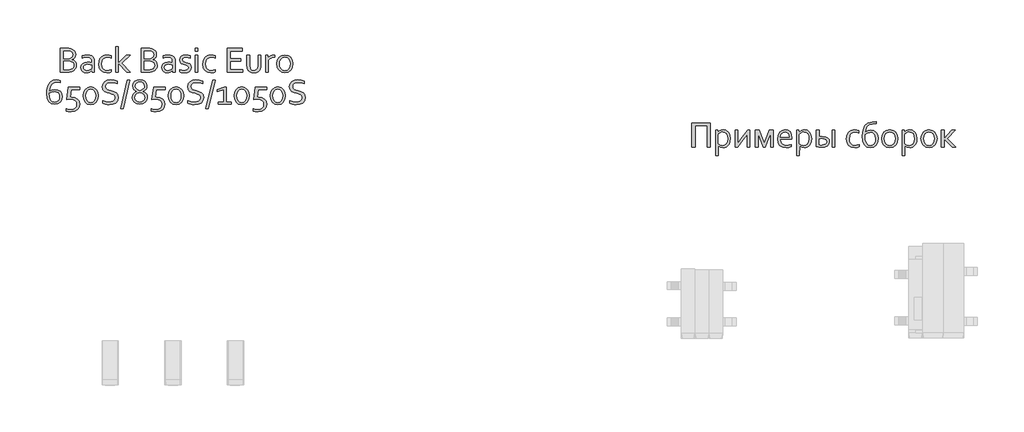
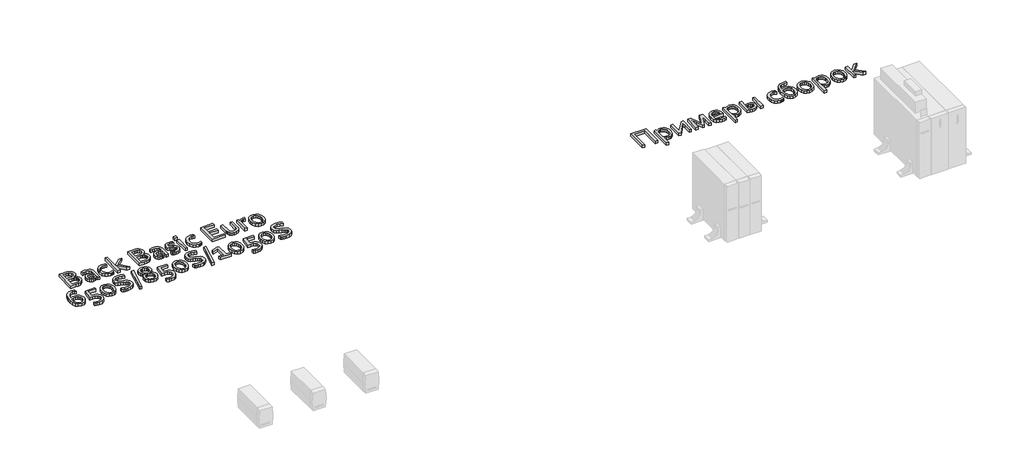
# One storey, part 14 of 14: 2 proxies.
"""IFC4 building model written with IfcOpenShell, lengths in millimetres."""

from ifc_helpers import new_model, si_unit, origin, origin_with_axes, place, context, project, spatial, polyline, outline, extrude, element, save

model = new_model("IFC4")

# Units and contexts
model_context = context("Model", 3, world=origin())
ifc_project = project(units=[si_unit("LENGTHUNIT", "METRE", prefix="MILLI")], contexts=[model_context])

# Site, building, storey
site = spatial("IfcSite", under=ifc_project)
building = spatial("IfcBuilding", under=site)
storey = spatial("IfcBuildingStorey", under=building, Name="Этаж 01", Elevation=0.0)

# Proxies
placement = place(None, origin())
element("IfcBuildingElementProxy", 1, Name="150 мм Corbel", ObjectType="150 мм Corbel", at=placement, inside=storey, context=model_context, shape_type="SweptSolid", body=[
    extrude(outline(polyline([(19660.6944893, 506.7147923), (19660.6944893, 355.5135004), (19641.0943218, 355.5135004), (19641.0943218, 489.9146487), (19565.4936759, 489.9146487), (19565.4936759, 355.5135004), (19545.8935084, 355.5135004), (19545.8935084, 506.7147923), (19660.6944893, 506.7147923)])), origin_with_axes(), (0.0, 0.0, 1.0), 20.0),
    extrude(outline(polyline([(19786.6955658, 409.9389654), (19784.5299223, 390.2950476), (19778.8423737, 375.3324197), (19770.5735531, 364.6354534), (19760.729719, 357.7010191), (19750.3827556, 353.8947366), (19740.4951711, 352.7134765), (19723.8044035, 355.9072538), (19711.0949199, 365.3573345), (19710.7886673, 302.3130459), (19694.2947764, 302.3130459), (19694.2947764, 461.9144095), (19707.1136359, 461.9144095), (19710.7449169, 449.8393063), (19714.7480761, 454.1924685), (19720.7856277, 458.7206322), (19729.9075806, 462.9206681), (19741.5014297, 464.7144334), (19758.4328243, 461.6956576), (19772.8704477, 452.0705754), (19782.9111585, 435.0954304), (19786.6955658, 409.9389654)]), holes=[polyline([(19769.8954223, 409.8077143), (19767.9266555, 426.8266097), (19762.020355, 439.6673444), (19752.3296472, 447.8486643), (19739.0514088, 450.7143138), (19729.1856995, 449.1611755), (19721.1356307, 445.2455171), (19714.9449528, 440.1485985), (19710.7886673, 435.2704318), (19710.7886673, 379.576206), (19723.3450246, 370.1698756), (19738.4826539, 366.7135961), (19748.9389932, 368.5948622), (19759.1328303, 375.3324197), (19766.8547713, 388.5450326), (19769.8954223, 409.8077143)])]), origin_with_axes(), (0.0, 0.0, 1.0), 20.0),
    extrude(outline(polyline([(19832.9397109, 355.5135004), (19817.495829, 355.5135004), (19817.495829, 461.9144095), (19834.2959725, 461.9144095), (19834.2959725, 403.5514108), (19833.7272176, 380.4949639), (19841.9085375, 392.1544385), (19851.796122, 405.6951792), (19894.4527365, 461.9144095), (19909.8966184, 461.9144095), (19909.8966184, 355.5135004), (19893.0964749, 355.5135004), (19893.0964749, 413.8764991), (19893.6652297, 436.9329461), (19885.4401595, 425.2734714), (19875.5088246, 411.7327307), (19832.9397109, 355.5135004)])), origin_with_axes(), (0.0, 0.0, 1.0), 20.0),
    extrude(outline(polyline([(19994.466091, 355.5135004), (19973.9471657, 406.4826859), (19960.5158009, 440.7392286), (19960.297049, 406.7889385), (19960.297049, 355.5135004), (19943.4969055, 355.5135004), (19943.4969055, 461.9144095), (19968.0408652, 461.9144095), (19987.0722778, 413.5264961), (19999.0598802, 381.5012225), (20011.8349894, 413.5264961), (20030.9539027, 461.9144095), (20055.4978624, 461.9144095), (20055.4978624, 355.5135004), (20038.6977189, 355.5135004), (20038.6977189, 406.7889385), (20039.4852256, 440.7392286), (20025.0476023, 406.4826859), (20004.5286769, 355.5135004), (19994.466091, 355.5135004)])), origin_with_axes(), (0.0, 0.0, 1.0), 20.0),
    extrude(outline(polyline([(20138.8423245, 366.7135961), (20154.6143342, 368.1792336), (20168.8113305, 372.313644), (20168.8113305, 358.4885258), (20154.6799598, 354.2666148), (20136.6110554, 352.7134765), (20115.1514971, 355.6228764), (20098.1326017, 365.0292067), (20087.3262594, 382.0043518), (20083.4981016, 407.2701926), (20087.4793857, 432.5141583), (20098.0669761, 450.3643108), (20113.2921062, 461.1269028), (20131.2735098, 464.7144334), (20147.7674007, 461.7831584), (20161.0675144, 452.5518295), (20169.9707155, 436.2985656), (20173.2301183, 412.4327367), (20173.2301183, 410.1795925), (20173.0988672, 405.913931), (20099.3794873, 405.913931), (20102.4638887, 387.7137755), (20110.8858356, 375.594922), (20123.3984425, 368.8354892), (20138.8423245, 366.7135961)]), holes=[polyline([(20130.5297535, 450.7143138), (20119.0234052, 448.2861681), (20109.7483259, 441.6798616), (20103.317021, 431.9016531), (20100.2982452, 419.9140506), (20156.2987236, 419.9140506), (20154.6143342, 432.011029), (20149.6486668, 441.7892375), (20141.598598, 448.3299184), (20130.5297535, 450.7143138)])]), origin_with_axes(), (0.0, 0.0, 1.0), 20.0),
    extrude(outline(polyline([(20296.2999198, 409.9389654), (20294.1342763, 390.2950476), (20288.4467277, 375.3324197), (20280.177907, 364.6354534), (20270.3340729, 357.7010191), (20259.9871095, 353.8947366), (20250.0995251, 352.7134765), (20233.4087575, 355.9072538), (20220.6992739, 365.3573345), (20220.3930212, 302.3130459), (20203.8991303, 302.3130459), (20203.8991303, 461.9144095), (20216.7179899, 461.9144095), (20220.3492709, 449.8393063), (20224.3524301, 454.1924685), (20230.3899817, 458.7206322), (20239.5119346, 462.9206681), (20251.1057837, 464.7144334), (20268.0371783, 461.6956576), (20282.4748017, 452.0705754), (20292.5155125, 435.0954304), (20296.2999198, 409.9389654)]), holes=[polyline([(20279.4997762, 409.8077143), (20277.5310094, 426.8266097), (20271.624709, 439.6673444), (20261.9340012, 447.8486643), (20248.6557627, 450.7143138), (20238.7900534, 449.1611755), (20230.7399847, 445.2455171), (20224.5493068, 440.1485985), (20220.3930212, 435.2704318), (20220.3930212, 379.576206), (20232.9493785, 370.1698756), (20248.0870079, 366.7135961), (20258.5433472, 368.5948622), (20268.7371843, 375.3324197), (20276.4591253, 388.5450326), (20279.4997762, 409.8077143)])]), origin_with_axes(), (0.0, 0.0, 1.0), 20.0),
    extrude(outline(polyline([(20343.9003265, 461.9144095), (20343.9003265, 421.2703122), (20353.9847876, 422.3203212), (20363.4129932, 422.7140746), (20384.1506704, 420.1546777), (20398.0632892, 413.1764931), (20405.872731, 402.8076545), (20408.3008767, 389.988795), (20404.6039701, 374.6980393), (20394.3445075, 363.9354474), (20378.6818736, 357.6135184), (20358.6442024, 355.5135004), (20341.3190544, 356.5635094), (20327.1001829, 359.6260356), (20327.1001829, 461.9144095), (20343.9003265, 461.9144095)]), holes=[polyline([(20360.3942174, 369.51362), (20383.0787862, 374.6105386), (20389.3296209, 380.9269988), (20391.5007332, 389.6825424), (20389.8600941, 397.251357), (20384.9163019, 403.2670334), (20376.2756031, 407.2264422), (20363.1942413, 408.713955), (20354.5754177, 408.363952), (20343.9003265, 407.0951911), (20343.9003265, 371.0011327), (20351.5785171, 369.863623), (20360.3942174, 369.51362)])]), origin_with_axes(), (0.0, 0.0, 1.0), 20.0),
    extrude(outline(polyline([(20425.1010202, 355.5135004), (20425.1010202, 461.9144095), (20441.9011638, 461.9144095), (20441.9011638, 355.5135004), (20425.1010202, 355.5135004)])), origin_with_axes(), (0.0, 0.0, 1.0), 20.0),
    extrude(outline(polyline([(20565.2334675, 464.7144334), (20580.042969, 463.1612951), (20592.1399474, 458.8518833), (20592.1399474, 445.114266), (20579.1242112, 449.3143018), (20567.0272328, 450.7143138), (20554.1208726, 448.5267951), (20542.702025, 441.3298586), (20534.5863307, 428.0734954), (20531.5019293, 407.6201956), (20533.7988239, 391.2575558), (20540.6238822, 378.3074452), (20551.9989794, 369.7761223), (20567.8147396, 366.7135961), (20580.9179765, 368.1792336), (20593.8024616, 372.313644), (20593.8024616, 358.4885258), (20588.8367942, 356.3666327), (20582.0554862, 354.4853666), (20574.2022941, 353.1947306), (20565.8897231, 352.7134765), (20545.5457993, 355.9510042), (20529.1612843, 365.9260894), (20518.5299435, 382.96686), (20514.7017858, 407.3576934), (20516.714303, 426.3016052), (20522.2706004, 441.0892316), (20530.6706722, 451.9611994), (20541.302013, 459.2893871), (20553.2458651, 463.4237974), (20565.2334675, 464.7144334)])), origin_with_axes(), (0.0, 0.0, 1.0), 20.0),
    extrude(outline(polyline([(20634.4465589, 450.2330597), (20651.7060813, 458.8737585), (20668.7468519, 461.9144095), (20687.2095096, 458.5893811), (20701.2752548, 448.8986733), (20710.309707, 433.1485387), (20713.5034843, 411.6014796), (20710.2003311, 387.1450207), (20700.5533737, 368.5948622), (20684.9563654, 356.8478868), (20663.84681, 352.7134765), (20643.3716351, 357.0885139), (20628.1902554, 370.8042561), (20618.7620498, 394.7575857), (20615.502647, 429.8016351), (20618.9151762, 464.6488078), (20629.7433937, 490.0458998), (20648.8185566, 506.5616659), (20676.9281718, 514.6773603), (20703.397148, 517.9148879), (20703.397148, 503.9147683), (20677.4969267, 500.5897399), (20659.0123937, 496.7834574), (20645.8435312, 489.0615164), (20637.6622113, 474.3613908), (20634.4465589, 450.2330597)]), holes=[polyline([(20665.1593213, 447.9142899), (20648.0091747, 444.5236359), (20632.3027905, 435.6641852), (20631.9527875, 425.0765948), (20634.2934325, 399.0888727), (20640.9872397, 380.976218), (20651.4873294, 370.2573764), (20665.1593213, 366.7135961), (20678.2188078, 369.6011208), (20688.1282675, 378.1543189), (20694.4720717, 392.1544385), (20696.7033408, 411.2077263), (20694.0126928, 428.0953705), (20686.9251322, 439.4704677), (20676.8187959, 445.9017727), (20665.1593213, 447.9142899)])]), origin_with_axes(), (0.0, 0.0, 1.0), 20.0),
    extrude(outline(polyline([(20836.7045369, 408.5827038), (20833.1388814, 385.7668839), (20823.0325451, 368.1136081), (20807.216785, 356.7385109), (20786.4353574, 352.7134765), (20765.2383013, 356.7385109), (20749.3569156, 368.1136081), (20739.3599552, 385.7668839), (20735.9036757, 408.5827038), (20739.4693311, 431.5735253), (20749.5756675, 449.2705515), (20765.4570532, 460.689399), (20786.3041063, 464.7144334), (20807.4136617, 460.689399), (20823.2950473, 449.2705515), (20833.2482574, 431.5735253), (20836.7045369, 408.5827038)]), holes=[polyline([(20819.9043934, 408.5827038), (20817.4106221, 426.4547315), (20810.4324374, 439.6892196), (20799.7792214, 447.9142899), (20786.3041063, 450.7143138), (20772.8289912, 447.9142899), (20762.1757751, 439.6892196), (20755.1975905, 426.4547315), (20752.7038192, 408.5827038), (20755.1975905, 390.8419273), (20762.2414007, 377.6730647), (20772.9383671, 369.51362), (20786.4353574, 366.7135961), (20799.844847, 369.51362), (20810.4324374, 377.6730647), (20817.4106221, 390.8419273), (20819.9043934, 408.5827038)])]), origin_with_axes(), (0.0, 0.0, 1.0), 20.0),
    extrude(outline(polyline([(20957.1055656, 409.9389654), (20954.9399221, 390.2950476), (20949.2523735, 375.3324197), (20940.9835528, 364.6354534), (20931.1397187, 357.7010191), (20920.7927553, 353.8947366), (20910.9051709, 352.7134765), (20894.2144033, 355.9072538), (20881.5049197, 365.3573345), (20881.1986671, 302.3130459), (20864.7047761, 302.3130459), (20864.7047761, 461.9144095), (20877.5236357, 461.9144095), (20881.1549167, 449.8393063), (20885.1580759, 454.1924685), (20891.1956275, 458.7206322), (20900.3175804, 462.9206681), (20911.9114295, 464.7144334), (20928.8428241, 461.6956576), (20943.2804475, 452.0705754), (20953.3211583, 435.0954304), (20957.1055656, 409.9389654)]), holes=[polyline([(20940.3054221, 409.8077143), (20938.3366552, 426.8266097), (20932.4303548, 439.6673444), (20922.739647, 447.8486643), (20909.4614085, 450.7143138), (20899.5956992, 449.1611755), (20891.5456305, 445.2455171), (20885.3549526, 440.1485985), (20881.1986671, 435.2704318), (20881.1986671, 379.576206), (20893.7550243, 370.1698756), (20908.8926537, 366.7135961), (20919.348993, 368.5948622), (20929.5428301, 375.3324197), (20937.2647711, 388.5450326), (20940.3054221, 409.8077143)])]), origin_with_axes(), (0.0, 0.0, 1.0), 20.0),
    extrude(outline(polyline([(21083.1066421, 408.5827038), (21079.5409867, 385.7668839), (21069.4346503, 368.1136081), (21053.6188902, 356.7385109), (21032.8374626, 352.7134765), (21011.6404065, 356.7385109), (20995.7590208, 368.1136081), (20985.7620604, 385.7668839), (20982.3057809, 408.5827038), (20985.8714364, 431.5735253), (20995.9777727, 449.2705515), (21011.8591584, 460.689399), (21032.7062115, 464.7144334), (21053.8157669, 460.689399), (21069.6971526, 449.2705515), (21079.6503626, 431.5735253), (21083.1066421, 408.5827038)]), holes=[polyline([(21066.3064986, 408.5827038), (21063.8127273, 426.4547315), (21056.8345427, 439.6892196), (21046.1813266, 447.9142899), (21032.7062115, 450.7143138), (21019.2310964, 447.9142899), (21008.5778804, 439.6892196), (21001.5996957, 426.4547315), (20999.1059244, 408.5827038), (21001.5996957, 390.8419273), (21008.6435059, 377.6730647), (21019.3404723, 369.51362), (21032.8374626, 366.7135961), (21046.2469522, 369.51362), (21056.8345427, 377.6730647), (21063.8127273, 390.8419273), (21066.3064986, 408.5827038)])]), origin_with_axes(), (0.0, 0.0, 1.0), 20.0),
    extrude(outline(polyline([(21127.9617129, 409.8514647), (21174.5449234, 461.9144095), (21196.7263629, 461.9144095), (21148.6447021, 408.9327068), (21199.6576379, 355.5135004), (21177.2136962, 355.5135004), (21128.1257768, 407.663946), (21127.9070249, 355.5135004), (21111.1068814, 355.5135004), (21111.1068814, 461.9144095), (21127.9070249, 461.9144095), (21127.9617129, 409.8514647)])), origin_with_axes(), (0.0, 0.0, 1.0), 20.0),
])
element("IfcBuildingElementProxy", 2, Name="150 мм Corbel", ObjectType="150 мм Corbel", at=placement, inside=storey, context=model_context, shape_type="SweptSolid", body=[
    extrude(outline(polyline([(15656.2052422, 905.078987), (15668.6959739, 901.0758278), (15678.1023042, 894.0538928), (15683.8336032, 883.8819309), (15685.6929941, 870.428691), (15684.1836062, 859.1629697), (15679.1523132, 847.722247), (15669.9209843, 837.4846595), (15655.7677384, 829.8283441), (15641.3738654, 826.6345668), (15622.3862032, 825.715809), (15584.8921329, 825.715809), (15584.8921329, 976.9171008), (15621.3361942, 976.9171008), (15630.4143968, 976.7420993), (15637.9394611, 976.23897), (15644.3270157, 975.4077129), (15649.9051883, 974.248328), (15662.3740449, 969.0420335), (15671.9116264, 961.1888414), (15677.9710531, 950.8200028), (15680.0929463, 938.19802), (15678.8023102, 927.7198055), (15674.6460247, 918.4666014), (15667.2522115, 910.8759116), (15656.2052422, 905.078987)]), holes=[polyline([(15604.4923003, 895.7164071), (15604.4923003, 842.5159525), (15625.7987324, 842.5159525), (15639.8863527, 843.2597089), (15650.9114469, 845.6222291), (15659.3552691, 850.0191416), (15664.9334417, 855.9691925), (15667.9740927, 862.8817515), (15668.8928506, 870.2974399), (15667.9084672, 878.500635), (15664.7146899, 885.3694436), (15658.874015, 890.6851141), (15649.861438, 894.2288943), (15642.4238744, 895.3664041), (15632.0987862, 895.7164071), (15604.4923003, 895.7164071)]), polyline([(15631.6175321, 912.5165506), (15640.6519843, 913.0196799), (15647.5426682, 914.4853174), (15659.5302706, 923.0822659), (15663.2928027, 936.8855088), (15659.3552691, 950.2074976), (15647.0176637, 957.9294386), (15637.3925814, 959.613828), (15624.4862212, 960.1169573), (15604.4923003, 960.1169573), (15604.4923003, 912.5165506), (15631.6175321, 912.5165506)])]), origin_with_axes(), (0.0, 0.0, 1.0), 20.0),
    extrude(outline(polyline([(15781.418812, 837.4846595), (15775.6218874, 832.1689891), (15768.2061991, 827.4439487), (15759.0186206, 824.1407955), (15748.3872798, 822.9157851), (15734.3652849, 825.1689293), (15723.4058163, 831.7971109), (15716.2526302, 842.450327), (15713.6932333, 856.6910736), (15716.5370076, 870.6911932), (15724.4995757, 881.1694078), (15736.8153059, 887.7975894), (15752.7185668, 890.1163592), (15767.965572, 888.6288465), (15780.4563037, 885.2600677), (15780.8938075, 892.8726328), (15780.3250526, 901.207079), (15778.4000362, 907.5727583), (15769.1249569, 917.132215), (15751.8435593, 920.9166224), (15736.6403044, 919.4291096), (15722.4870585, 915.3165745), (15722.4870585, 929.0104415), (15728.8089875, 931.3948369), (15736.4871781, 933.2979781), (15744.9966258, 934.5011134), (15753.9873276, 934.916742), (15768.6218276, 933.489386), (15780.2375519, 929.2073182), (15788.9001259, 922.5736678), (15794.6751752, 914.091564), (15796.993945, 906.1946216), (15797.693951, 896.7226656), (15797.693951, 825.715809), (15783.300078, 825.715809), (15781.418812, 837.4846595)]), holes=[polyline([(15780.8938075, 872.1349556), (15769.2780832, 874.7381028), (15754.5123321, 876.1162396), (15736.8590563, 871.3474488), (15732.0847967, 865.2989597), (15730.4933769, 856.6910736), (15732.0902655, 847.9409989), (15736.4653029, 841.750321), (15743.0497341, 838.1190399), (15751.1873037, 836.9159047), (15761.7748941, 838.5565437), (15770.4812185, 842.4722021), (15776.9562738, 847.022241), (15780.8938075, 850.5660213), (15780.8938075, 872.1349556)])]), origin_with_axes(), (0.0, 0.0, 1.0), 20.0),
    extrude(outline(polyline([(15876.225872, 934.916742), (15891.0353735, 933.3636037), (15903.1323519, 929.0541919), (15903.1323519, 915.3165745), (15890.1166157, 919.5166104), (15878.0196373, 920.9166224), (15865.113277, 918.7291037), (15853.6944295, 911.5321672), (15845.5787351, 898.2758039), (15842.4943338, 877.8225042), (15844.7912284, 861.4598644), (15851.6162867, 848.5097537), (15862.9913839, 839.9784308), (15878.807144, 836.9159047), (15891.910381, 838.3815422), (15904.7948661, 842.5159525), (15904.7948661, 828.6908344), (15899.8291986, 826.5689413), (15893.0478907, 824.6876752), (15885.1946986, 823.3970392), (15876.8821276, 822.9157851), (15856.5382038, 826.1533127), (15840.1536888, 836.1283979), (15829.522348, 853.1691685), (15825.6941902, 877.5600019), (15827.7067074, 896.5039138), (15833.2630049, 911.2915401), (15841.6630767, 922.163508), (15852.2944175, 929.4916956), (15864.2382696, 933.6261059), (15876.225872, 934.916742)])), origin_with_axes(), (0.0, 0.0, 1.0), 20.0),
    extrude(outline(polyline([(15999.3394238, 932.116718), (16022.0021175, 932.116718), (15969.982923, 883.1600498), (16021.8708663, 825.715809), (16000.2581817, 825.715809), (15949.1139947, 882.4600438), (15948.8952429, 825.715809), (15932.0950993, 825.715809), (15932.0950993, 988.1171965), (15948.8952429, 988.1171965), (15948.8952429, 884.6475625), (15999.3394238, 932.116718)])), origin_with_axes(), (0.0, 0.0, 1.0), 20.0),
    extrude(outline(polyline([(16163.0095722, 905.078987), (16175.5003039, 901.0758278), (16184.9066343, 894.0538928), (16190.6379333, 883.8819309), (16192.4973241, 870.428691), (16190.9879363, 859.1629697), (16185.9566433, 847.722247), (16176.7253144, 837.4846595), (16162.5720685, 829.8283441), (16148.1781955, 826.6345668), (16129.1905333, 825.715809), (16091.6964629, 825.715809), (16091.6964629, 976.9171008), (16128.1405243, 976.9171008), (16137.2187269, 976.7420993), (16144.7437912, 976.23897), (16151.1313457, 975.4077129), (16156.7095184, 974.248328), (16169.1783749, 969.0420335), (16178.7159564, 961.1888414), (16184.7753832, 950.8200028), (16186.8972763, 938.19802), (16185.6066403, 927.7198055), (16181.4503548, 918.4666014), (16174.0565416, 910.8759116), (16163.0095722, 905.078987)]), holes=[polyline([(16138.4218621, 912.5165506), (16147.4563143, 913.0196799), (16154.3469982, 914.4853174), (16166.3346006, 923.0822659), (16170.0971328, 936.8855088), (16166.1595991, 950.2074976), (16153.8219937, 957.9294386), (16144.1969115, 959.613828), (16131.2905512, 960.1169573), (16111.2966304, 960.1169573), (16111.2966304, 912.5165506), (16138.4218621, 912.5165506)]), polyline([(16111.2966304, 895.7164071), (16111.2966304, 842.5159525), (16132.6030624, 842.5159525), (16146.6906828, 843.2597089), (16157.715777, 845.6222291), (16166.1595991, 850.0191416), (16171.7377718, 855.9691925), (16174.7784228, 862.8817515), (16175.6971806, 870.2974399), (16174.7127972, 878.500635), (16171.5190199, 885.3694436), (16165.678345, 890.6851141), (16156.665768, 894.2288943), (16149.2282045, 895.3664041), (16138.9031162, 895.7164071), (16111.2966304, 895.7164071)])]), origin_with_axes(), (0.0, 0.0, 1.0), 20.0),
    extrude(outline(polyline([(16288.223142, 837.4846595), (16282.4262175, 832.1689891), (16275.0105291, 827.4439487), (16265.8229506, 824.1407955), (16255.1916098, 822.9157851), (16241.169615, 825.1689293), (16230.2101464, 831.7971109), (16223.0569602, 842.450327), (16220.4975634, 856.6910736), (16223.3413377, 870.6911932), (16231.3039057, 881.1694078), (16243.6196359, 887.7975894), (16259.5228968, 890.1163592), (16274.7699021, 888.6288465), (16287.2606338, 885.2600677), (16287.6981375, 892.8726328), (16287.1293827, 901.207079), (16285.2043662, 907.5727583), (16275.929287, 917.132215), (16258.6478893, 920.9166224), (16243.4446344, 919.4291096), (16229.2913885, 915.3165745), (16229.2913885, 929.0104415), (16235.6133175, 931.3948369), (16243.2915081, 933.2979781), (16251.8009558, 934.5011134), (16260.7916576, 934.916742), (16275.4261577, 933.489386), (16287.0418819, 929.2073182), (16295.7044559, 922.5736678), (16301.4795053, 914.091564), (16303.7982751, 906.1946216), (16304.4982811, 896.7226656), (16304.4982811, 825.715809), (16290.1044081, 825.715809), (16288.223142, 837.4846595)]), holes=[polyline([(16287.6981375, 872.1349556), (16276.0824133, 874.7381028), (16261.3166621, 876.1162396), (16243.6633863, 871.3474488), (16238.8891268, 865.2989597), (16237.2977069, 856.6910736), (16238.8945956, 847.9409989), (16243.2696329, 841.750321), (16249.8540642, 838.1190399), (16257.9916337, 836.9159047), (16268.5792242, 838.5565437), (16277.2855486, 842.4722021), (16283.7606039, 847.022241), (16287.6981375, 850.5660213), (16287.6981375, 872.1349556)])]), origin_with_axes(), (0.0, 0.0, 1.0), 20.0),
    extrude(outline(polyline([(16349.2986638, 903.7664758), (16351.2236803, 896.5914145), (16356.3862244, 892.0632508), (16363.8894135, 889.2194765), (16372.7051138, 887.1850842), (16384.5177147, 884.2100587), (16394.7990526, 879.3537673), (16402.4116176, 870.5599421), (16405.2991423, 856.1660691), (16402.1491154, 841.9034473), (16393.2677895, 831.4908583), (16379.5739225, 825.1033037), (16362.0300226, 822.9157851), (16351.4424321, 823.5064151), (16343.0204852, 824.9939278), (16336.7860569, 826.8533187), (16332.4985203, 828.647084), (16332.4985203, 842.5159525), (16345.9517602, 838.4252926), (16360.673761, 836.9159047), (16372.0926086, 838.0971648), (16380.8426833, 841.5534443), (16386.5083567, 847.2847433), (16388.4989988, 855.2910617), (16386.6833582, 862.6848748), (16381.7833164, 867.5192911), (16374.6520054, 870.6474429), (16366.1425577, 872.8787119), (16354.3299568, 875.7881118), (16343.4361137, 880.491277), (16335.5172961, 888.7163472), (16332.4985203, 902.1039616), (16335.4954209, 916.6728361), (16343.6111152, 926.8666732), (16355.4893417, 932.9042248), (16369.8175891, 934.916742), (16386.0927282, 933.3198533), (16399.6990944, 929.3166941), (16399.6990944, 915.3165745), (16386.2239793, 919.2978585), (16372.1801093, 920.9166224), (16361.72377, 919.6259863), (16354.6143342, 916.0384557), (16350.5674247, 910.6352845), (16349.2986638, 903.7664758)])), origin_with_axes(), (0.0, 0.0, 1.0), 20.0),
    extrude(outline(polyline([(16430.4993576, 957.3169334), (16430.4993576, 976.9171008), (16447.2995011, 976.9171008), (16447.2995011, 957.3169334), (16430.4993576, 957.3169334)])), origin_with_axes(), (0.0, 0.0, 1.0), 20.0),
    extrude(outline(polyline([(16430.4993576, 825.715809), (16430.4993576, 932.116718), (16447.2995011, 932.116718), (16447.2995011, 825.715809), (16430.4993576, 825.715809)])), origin_with_axes(), (0.0, 0.0, 1.0), 20.0),
    extrude(outline(polyline([(16528.631446, 934.916742), (16543.4409475, 933.3636037), (16555.5379259, 929.0541919), (16555.5379259, 915.3165745), (16542.5221897, 919.5166104), (16530.4252113, 920.9166224), (16517.5188511, 918.7291037), (16506.1000035, 911.5321672), (16497.9843092, 898.2758039), (16494.8999078, 877.8225042), (16497.1968024, 861.4598644), (16504.0218608, 848.5097537), (16515.3969579, 839.9784308), (16531.2127181, 836.9159047), (16544.315955, 838.3815422), (16557.2004401, 842.5159525), (16557.2004401, 828.6908344), (16552.2347727, 826.5689413), (16545.4534647, 824.6876752), (16537.6002726, 823.3970392), (16529.2877016, 822.9157851), (16508.9437778, 826.1533127), (16492.5592628, 836.1283979), (16481.927922, 853.1691685), (16478.0997643, 877.5600019), (16480.1122815, 896.5039138), (16485.668579, 911.2915401), (16494.0686507, 922.163508), (16504.6999916, 929.4916956), (16516.6438436, 933.6261059), (16528.631446, 934.916742)])), origin_with_axes(), (0.0, 0.0, 1.0), 20.0),
    extrude(outline(polyline([(16651.7012475, 842.5159525), (16728.6144046, 842.5159525), (16728.6144046, 825.715809), (16632.10108, 825.715809), (16632.10108, 976.9171008), (16724.4581191, 976.9171008), (16724.4581191, 960.1169573), (16651.7012475, 960.1169573), (16651.7012475, 912.5165506), (16716.4080503, 912.5165506), (16716.4080503, 895.7164071), (16651.7012475, 895.7164071), (16651.7012475, 842.5159525)])), origin_with_axes(), (0.0, 0.0, 1.0), 20.0),
    extrude(outline(polyline([(16798.3525005, 822.9157851), (16783.5648741, 824.7095504), (16772.0585258, 829.7408434), (16763.658454, 837.5284099), (16758.1896573, 847.4597448), (16755.9802634, 856.2973203), (16755.3021327, 866.8411603), (16755.3021327, 932.116718), (16772.1022762, 932.116718), (16772.1022762, 866.4036566), (16774.4647964, 851.4847791), (16783.2367463, 840.8096879), (16798.7025035, 836.9159047), (16814.7370155, 841.2034413), (16823.3777143, 852.7097896), (16825.3027307, 866.4036566), (16825.3027307, 932.116718), (16842.1028743, 932.116718), (16842.1028743, 866.7099092), (16841.490369, 856.6910736), (16839.5216022, 848.1160004), (16834.0309303, 837.9877888), (16825.3902315, 829.9595952), (16813.5557554, 824.7533008), (16798.3525005, 822.9157851)])), origin_with_axes(), (0.0, 0.0, 1.0), 20.0),
    extrude(outline(polyline([(16930.6973812, 920.9166224), (16917.2660164, 919.7572375), (16906.1096711, 916.2353324), (16896.7033408, 910.3946575), (16889.703281, 902.1914624), (16889.703281, 825.715809), (16872.9031374, 825.715809), (16872.9031374, 932.116718), (16885.8969984, 932.116718), (16889.1345261, 915.1853234), (16895.7845829, 922.9291396), (16904.2502802, 929.2073182), (16914.5753685, 933.4073541), (16926.3660942, 934.916742), (16928.6411136, 934.8729916), (16930.6973812, 934.7417405), (16930.6973812, 920.9166224)])), origin_with_axes(), (0.0, 0.0, 1.0), 20.0),
    extrude(outline(polyline([(17043.7045967, 878.7850124), (17040.1389412, 855.9691925), (17030.0326049, 838.3159166), (17014.2168448, 826.9408194), (16993.4354172, 822.9157851), (16972.2383611, 826.9408194), (16956.3569754, 838.3159166), (16946.360015, 855.9691925), (16942.9037355, 878.7850124), (16946.469391, 901.7758338), (16956.5757273, 919.47286), (16972.457113, 930.8917076), (16993.3041661, 934.916742), (17014.4137215, 930.8917076), (17030.2951071, 919.47286), (17040.2483172, 901.7758338), (17043.7045967, 878.7850124)]), holes=[polyline([(17026.9044532, 878.7850124), (17024.4106819, 896.6570401), (17017.4324972, 909.8915282), (17006.7792812, 918.1165984), (16993.3041661, 920.9166224), (16979.829051, 918.1165984), (16969.175835, 909.8915282), (16962.1976503, 896.6570401), (16959.703879, 878.7850124), (16962.1976503, 861.0442358), (16969.2414605, 847.8753733), (16979.9384269, 839.7159286), (16993.4354172, 836.9159047), (17006.8449068, 839.7159286), (17017.4324972, 847.8753733), (17024.4106819, 861.0442358), (17026.9044532, 878.7850124)])]), origin_with_axes(), (0.0, 0.0, 1.0), 20.0),
    extrude(outline(polyline([(15548.6668234, 717.7161678), (15567.6763608, 714.8723935), (15582.7264894, 706.4723218), (15592.5703235, 692.7565796), (15596.0922286, 673.9220437), (15592.8547009, 654.2781258), (15583.4921209, 638.9217446), (15568.5294931, 628.9247842), (15548.4480715, 625.3153784), (15527.1853898, 629.9747932), (15511.3696297, 643.296782), (15501.5039204, 664.2750862), (15498.0913913, 691.9034473), (15499.7976558, 714.6755168), (15504.8945744, 735.4350692), (15513.3165213, 753.197721), (15525.4134997, 767.0665895), (15541.2292598, 776.1010417), (15560.3044228, 779.3166941), (15574.9826732, 777.6541799), (15585.2858862, 774.1103996), (15585.2858862, 759.7165267), (15574.5451695, 763.5884347), (15561.5294333, 765.3165745), (15545.9105498, 761.9915461), (15532.1729325, 751.7320834), (15521.6728427, 734.122558), (15515.6790415, 708.8785923), (15531.997931, 715.3098973), (15548.6668234, 717.7161678)]), holes=[polyline([(15549.2355782, 639.315498), (15561.0481792, 641.5030167), (15570.5857606, 647.9343216), (15576.9733152, 658.4344113), (15579.292085, 672.7407836), (15576.8420641, 687.2440325), (15570.1701321, 696.8472395), (15560.2825476, 702.1191596), (15548.1855693, 703.7160482), (15530.8822964, 700.8503987), (15514.8915348, 693.8284637), (15517.3196805, 669.7876333), (15524.4291163, 652.7468627), (15535.3448346, 642.6405264), (15549.2355782, 639.315498)])]), origin_with_axes(), (0.0, 0.0, 1.0), 20.0),
    extrude(outline(polyline([(15705.2931616, 625.4466295), (15701.8150068, 606.3933417), (15691.6211698, 591.2775876), (15674.6897751, 581.3025023), (15651.4802018, 577.7149717), (15635.2269379, 579.2024844), (15621.3361942, 583.7525233), (15621.3361942, 597.3151391), (15637.0207033, 592.8744762), (15650.6926951, 591.7150913), (15667.2959619, 594.3401137), (15679.0648125, 601.4932998), (15686.1304978, 612.0371399), (15688.493018, 624.6591228), (15685.9992467, 638.5936168), (15678.189805, 648.3718254), (15664.5396884, 654.1906251), (15644.4363916, 656.1156415), (15624.6612227, 654.9781318), (15635.2925635, 731.7162874), (15706.3431705, 731.7162874), (15706.3431705, 717.7161678), (15652.092707, 717.7161678), (15645.8364036, 669.8970093), (15652.092707, 670.1157611), (15674.8429014, 667.0969853), (15691.533669, 658.3687858), (15701.7931317, 644.3686662), (15705.2931616, 625.4466295)])), origin_with_axes(), (0.0, 0.0, 1.0), 20.0),
    extrude(outline(polyline([(15822.8941663, 678.3845818), (15819.6785139, 656.290643), (15810.337809, 638.5498664), (15795.4408068, 626.7810159), (15775.3812604, 622.5153544), (15754.9279606, 626.7810159), (15739.9653328, 638.5498664), (15730.7996295, 656.290643), (15727.6933529, 678.3845818), (15730.9090054, 700.6316469), (15740.2497102, 718.438049), (15755.2123381, 730.2506499), (15775.2937596, 734.5163114), (15795.6595586, 730.2506499), (15810.6221865, 718.438049), (15819.7878898, 700.6316469), (15822.8941663, 678.3845818)]), holes=[polyline([(15806.0940228, 678.3845818), (15803.9065041, 696.0378576), (15797.7158262, 709.2723457), (15788.0469936, 717.6067919), (15775.2937596, 720.5161917), (15762.5405257, 717.6067919), (15752.8279427, 709.2723457), (15746.6372648, 696.0378576), (15744.4934965, 678.3845818), (15746.6810152, 660.8844323), (15752.8716931, 647.6936946), (15762.6061512, 639.4248739), (15775.4250108, 636.5154741), (15788.1563695, 639.4248739), (15797.8252021, 647.6936946), (15803.9502545, 660.8844323), (15806.0940228, 678.3845818)])]), origin_with_axes(), (0.0, 0.0, 1.0), 20.0),
    extrude(outline(polyline([(15867.6945491, 736.4850782), (15870.4289475, 725.4818592), (15877.7571351, 718.3067979), (15888.4322263, 713.6692582), (15901.1198347, 710.2786043), (15918.598109, 705.5316887), (15933.8888646, 698.3566274), (15944.7389573, 686.4346506), (15948.8952429, 667.5782395), (15944.4108295, 647.3218164), (15932.0294738, 633.2998216), (15913.4793153, 625.1622521), (15890.1384908, 622.5153544), (15878.216514, 623.2372356), (15866.5570394, 625.1841272), (15856.5163286, 627.9841512), (15849.4506432, 631.0904277), (15849.4506432, 647.7155697), (15858.5288458, 644.2811654), (15868.9633099, 641.6342678), (15879.8352778, 639.9280032), (15890.1384908, 639.315498), (15905.1229939, 640.6498844), (15917.6137256, 645.1124225), (15926.1450485, 653.6218702), (15929.2950754, 667.1407357), (15926.4950515, 678.3189562), (15919.0356127, 685.6033935), (15908.2730208, 690.2846835), (15895.4322861, 693.6972126), (15878.0196373, 698.2472515), (15862.8601328, 705.3129369), (15852.1412912, 716.9505363), (15848.0943816, 735.1288166), (15852.3381679, 754.9477359), (15863.822641, 768.6853533), (15880.3821575, 776.7135469), (15900.2448272, 779.3166941), (15922.6012682, 777.0197995), (15941.5889304, 771.0478735), (15941.5889304, 754.1164788), (15922.3606411, 760.11028), (15901.1198347, 762.5165506), (15886.3103331, 760.6790349), (15875.8977442, 755.4508652), (15869.7289415, 747.2257949), (15867.6945491, 736.4850782)])), origin_with_axes(), (0.0, 0.0, 1.0), 20.0),
    extrude(outline(polyline([(15962.1078557, 597.3151391), (16004.7207198, 776.5166702), (16021.3021115, 776.5166702), (15978.6892474, 597.3151391), (15962.1078557, 597.3151391)])), origin_with_axes(), (0.0, 0.0, 1.0), 20.0),
    extrude(outline(polyline([(16083.2963912, 625.3153784), (16063.84935, 628.4872805), (16048.7992214, 637.21548), (16039.1085136, 650.3843426), (16035.6959845, 666.8782335), (16037.8835032, 681.4471079), (16044.0523059, 692.450327), (16053.3492603, 700.1722679), (16064.6149815, 704.6785564), (16054.246143, 710.2129787), (16045.9554471, 717.9130445), (16040.4647752, 728.1068816), (16038.4960084, 740.6851141), (16042.2585405, 757.2883809), (16052.2992513, 769.4072345), (16066.6056236, 776.8229228), (16083.2963912, 779.3166941), (16099.9871588, 776.8229228), (16114.293531, 769.4072345), (16124.3342418, 757.2883809), (16128.0967739, 740.6851141), (16125.9092552, 728.1068816), (16120.02483, 717.9130445), (16111.3841311, 710.2129787), (16100.840291, 705.1160602), (16112.2810138, 700.1722679), (16121.9717216, 692.450327), (16128.5342777, 681.4471079), (16130.8967978, 666.8782335), (16127.4842687, 650.3843426), (16117.7935609, 637.21548), (16102.7434323, 628.4872805), (16083.2963912, 625.3153784)]), holes=[polyline([(16083.2963912, 765.3165745), (16072.1181707, 763.6978107), (16063.2149696, 758.8852696), (16057.3742947, 751.097703), (16055.2961519, 740.4663622), (16057.1336676, 730.1084612), (16062.6462147, 721.8724533), (16071.4837902, 715.8458393), (16083.2963912, 712.11612), (16095.1089921, 715.8458393), (16103.9465676, 721.8724533), (16109.4591147, 730.1084612), (16111.2966304, 740.4663622), (16109.2184876, 751.097703), (16103.3778127, 758.8852696), (16094.518362, 763.6978107), (16083.2963912, 765.3165745)]), polyline([(16083.2963912, 698.1160004), (16071.3087887, 695.2941013), (16061.508705, 689.4534263), (16054.9023986, 680.3314734), (16052.496128, 667.6657402), (16054.836773, 655.8531393), (16061.2899531, 646.8843126), (16071.0462865, 641.2623896), (16083.2963912, 639.315498), (16095.6777469, 641.2623896), (16105.4340803, 646.8843126), (16111.8216349, 655.8531393), (16114.0966543, 667.6657402), (16111.6903837, 680.3314734), (16105.0840773, 689.4534263), (16095.2839936, 695.2941013), (16083.2963912, 698.1160004)])]), origin_with_axes(), (0.0, 0.0, 1.0), 20.0),
    extrude(outline(polyline([(16240.0977308, 625.4466295), (16236.6195761, 606.3933417), (16226.425739, 591.2775876), (16209.4943444, 581.3025023), (16186.2847711, 577.7149717), (16170.0315072, 579.2024844), (16156.1407635, 583.7525233), (16156.1407635, 597.3151391), (16171.8252725, 592.8744762), (16185.4972643, 591.7150913), (16202.1005312, 594.3401137), (16213.8693817, 601.4932998), (16220.9350671, 612.0371399), (16223.2975873, 624.6591228), (16220.803816, 638.5936168), (16212.9943743, 648.3718254), (16199.3442576, 654.1906251), (16179.2409609, 656.1156415), (16159.4657919, 654.9781318), (16170.0971328, 731.7162874), (16241.1477398, 731.7162874), (16241.1477398, 717.7161678), (16186.8972763, 717.7161678), (16180.6409728, 669.8970093), (16186.8972763, 670.1157611), (16209.6474707, 667.0969853), (16226.3382383, 658.3687858), (16236.5977009, 644.3686662), (16240.0977308, 625.4466295)])), origin_with_axes(), (0.0, 0.0, 1.0), 20.0),
    extrude(outline(polyline([(16357.6987356, 678.3845818), (16354.4830831, 656.290643), (16345.1423783, 638.5498664), (16330.245376, 626.7810159), (16310.1858297, 622.5153544), (16289.7325299, 626.7810159), (16274.7699021, 638.5498664), (16265.6041988, 656.290643), (16262.4979222, 678.3845818), (16265.7135747, 700.6316469), (16275.0542795, 718.438049), (16290.0169073, 730.2506499), (16310.0983289, 734.5163114), (16330.4641279, 730.2506499), (16345.4267558, 718.438049), (16354.5924591, 700.6316469), (16357.6987356, 678.3845818)]), holes=[polyline([(16340.8985921, 678.3845818), (16338.7110734, 696.0378576), (16332.5203955, 709.2723457), (16322.8515629, 717.6067919), (16310.0983289, 720.5161917), (16297.3450949, 717.6067919), (16287.632512, 709.2723457), (16281.4418341, 696.0378576), (16279.2980658, 678.3845818), (16281.4855844, 660.8844323), (16287.6762623, 647.6936946), (16297.4107205, 639.4248739), (16310.22958, 636.5154741), (16322.9609388, 639.4248739), (16332.6297714, 647.6936946), (16338.7548237, 660.8844323), (16340.8985921, 678.3845818)])]), origin_with_axes(), (0.0, 0.0, 1.0), 20.0),
    extrude(outline(polyline([(16402.4991184, 736.4850782), (16405.2335167, 725.4818592), (16412.5617043, 718.3067979), (16423.2367955, 713.6692582), (16435.9244039, 710.2786043), (16453.4026783, 705.5316887), (16468.6934339, 698.3566274), (16479.5435266, 686.4346506), (16483.6998121, 667.5782395), (16479.2153988, 647.3218164), (16466.834043, 633.2998216), (16448.2838845, 625.1622521), (16424.9430601, 622.5153544), (16413.0210833, 623.2372356), (16401.3616086, 625.1841272), (16391.3208979, 627.9841512), (16384.2552125, 631.0904277), (16384.2552125, 647.7155697), (16393.3334151, 644.2811654), (16403.7678792, 641.6342678), (16414.6398471, 639.9280032), (16424.9430601, 639.315498), (16439.9275631, 640.6498844), (16452.4182949, 645.1124225), (16460.9496178, 653.6218702), (16464.0996447, 667.1407357), (16461.2996207, 678.3189562), (16453.840182, 685.6033935), (16443.0775901, 690.2846835), (16430.2368554, 693.6972126), (16412.8242066, 698.2472515), (16397.6647021, 705.3129369), (16386.9458605, 716.9505363), (16382.8989509, 735.1288166), (16387.1427372, 754.9477359), (16398.6272103, 768.6853533), (16415.1867268, 776.7135469), (16435.0493965, 779.3166941), (16457.4058375, 777.0197995), (16476.3934997, 771.0478735), (16476.3934997, 754.1164788), (16457.1652104, 760.11028), (16435.9244039, 762.5165506), (16421.1149024, 760.6790349), (16410.7023135, 755.4508652), (16404.5335107, 747.2257949), (16402.4991184, 736.4850782)])), origin_with_axes(), (0.0, 0.0, 1.0), 20.0),
    extrude(outline(polyline([(16496.912425, 597.3151391), (16539.5252891, 776.5166702), (16556.1066808, 776.5166702), (16513.4938167, 597.3151391), (16496.912425, 597.3151391)])), origin_with_axes(), (0.0, 0.0, 1.0), 20.0),
    extrude(outline(polyline([(16609.7008887, 639.315498), (16609.7008887, 717.7161678), (16569.2317929, 703.7160482), (16569.2317929, 717.7161678), (16611.9759081, 731.7162874), (16626.5010322, 731.7162874), (16626.5010322, 639.315498), (16655.857533, 639.315498), (16655.857533, 625.3153784), (16573.9130829, 625.3153784), (16573.9130829, 639.315498), (16609.7008887, 639.315498)])), origin_with_axes(), (0.0, 0.0, 1.0), 20.0),
    extrude(outline(polyline([(16769.3022523, 678.3845818), (16766.0865998, 656.290643), (16756.745895, 638.5498664), (16741.8488927, 626.7810159), (16721.7893463, 622.5153544), (16701.3360466, 626.7810159), (16686.3734187, 638.5498664), (16677.2077154, 656.290643), (16674.1014389, 678.3845818), (16677.3170914, 700.6316469), (16686.6577962, 718.438049), (16701.620424, 730.2506499), (16721.7018456, 734.5163114), (16742.0676446, 730.2506499), (16757.0302724, 718.438049), (16766.1959757, 700.6316469), (16769.3022523, 678.3845818)]), holes=[polyline([(16752.5021087, 678.3845818), (16750.31459, 696.0378576), (16744.1239121, 709.2723457), (16734.4550795, 717.6067919), (16721.7018456, 720.5161917), (16708.9486116, 717.6067919), (16699.2360286, 709.2723457), (16693.0453507, 696.0378576), (16690.9015824, 678.3845818), (16693.0891011, 660.8844323), (16699.279779, 647.6936946), (16709.0142372, 639.4248739), (16721.8330967, 636.5154741), (16734.5644555, 639.4248739), (16744.2332881, 647.6936946), (16750.3583404, 660.8844323), (16752.5021087, 678.3845818)])]), origin_with_axes(), (0.0, 0.0, 1.0), 20.0),
    extrude(outline(polyline([(16878.5031853, 625.4466295), (16875.0250305, 606.3933417), (16864.8311935, 591.2775876), (16847.8997988, 581.3025023), (16824.6902255, 577.7149717), (16808.4369616, 579.2024844), (16794.5462179, 583.7525233), (16794.5462179, 597.3151391), (16810.230727, 592.8744762), (16823.9027188, 591.7150913), (16840.5059856, 594.3401137), (16852.2748362, 601.4932998), (16859.3405215, 612.0371399), (16861.7030417, 624.6591228), (16859.2092704, 638.5936168), (16851.3998287, 648.3718254), (16837.7497121, 654.1906251), (16817.6464153, 656.1156415), (16797.8712464, 654.9781318), (16808.5025872, 731.7162874), (16879.5531942, 731.7162874), (16879.5531942, 717.7161678), (16825.3027307, 717.7161678), (16819.0464273, 669.8970093), (16825.3027307, 670.1157611), (16848.0529251, 667.0969853), (16864.7436927, 658.3687858), (16875.0031554, 644.3686662), (16878.5031853, 625.4466295)])), origin_with_axes(), (0.0, 0.0, 1.0), 20.0),
    extrude(outline(polyline([(16996.10419, 678.3845818), (16992.8885376, 656.290643), (16983.5478327, 638.5498664), (16968.6508305, 626.7810159), (16948.5912841, 622.5153544), (16928.1379843, 626.7810159), (16913.1753565, 638.5498664), (16904.0096532, 656.290643), (16900.9033766, 678.3845818), (16904.1190291, 700.6316469), (16913.4597339, 718.438049), (16928.4223618, 730.2506499), (16948.5037833, 734.5163114), (16968.8695823, 730.2506499), (16983.8322102, 718.438049), (16992.9979135, 700.6316469), (16996.10419, 678.3845818)]), holes=[polyline([(16979.3040465, 678.3845818), (16977.1165278, 696.0378576), (16970.9258499, 709.2723457), (16961.2570173, 717.6067919), (16948.5037833, 720.5161917), (16935.7505494, 717.6067919), (16926.0379664, 709.2723457), (16919.8472885, 696.0378576), (16917.7035202, 678.3845818), (16919.8910389, 660.8844323), (16926.0817168, 647.6936946), (16935.8161749, 639.4248739), (16948.6350345, 636.5154741), (16961.3663932, 639.4248739), (16971.0352258, 647.6936946), (16977.1602782, 660.8844323), (16979.3040465, 678.3845818)])]), origin_with_axes(), (0.0, 0.0, 1.0), 20.0),
    extrude(outline(polyline([(17040.9045728, 736.4850782), (17043.6389712, 725.4818592), (17050.9671588, 718.3067979), (17061.64225, 713.6692582), (17074.3298584, 710.2786043), (17091.8081327, 705.5316887), (17107.0988883, 698.3566274), (17117.948981, 686.4346506), (17122.1052666, 667.5782395), (17117.6208532, 647.3218164), (17105.2394975, 633.2998216), (17086.689339, 625.1622521), (17063.3485145, 622.5153544), (17051.4265377, 623.2372356), (17039.7670631, 625.1841272), (17029.7263523, 627.9841512), (17022.6606669, 631.0904277), (17022.6606669, 647.7155697), (17031.7388695, 644.2811654), (17042.1733336, 641.6342678), (17053.0453015, 639.9280032), (17063.3485145, 639.315498), (17078.3330176, 640.6498844), (17090.8237493, 645.1124225), (17099.3550722, 653.6218702), (17102.5050991, 667.1407357), (17099.7050752, 678.3189562), (17092.2456364, 685.6033935), (17081.4830445, 690.2846835), (17068.6423098, 693.6972126), (17051.229661, 698.2472515), (17036.0701565, 705.3129369), (17025.3513149, 716.9505363), (17021.3044053, 735.1288166), (17025.5481916, 754.9477359), (17037.0326647, 768.6853533), (17053.5921812, 776.7135469), (17073.4548509, 779.3166941), (17095.8112919, 777.0197995), (17114.7989541, 771.0478735), (17114.7989541, 754.1164788), (17095.5706648, 760.11028), (17074.3298584, 762.5165506), (17059.5203568, 760.6790349), (17049.1077679, 755.4508652), (17042.9389652, 747.2257949), (17040.9045728, 736.4850782)])), origin_with_axes(), (0.0, 0.0, 1.0), 20.0),
])

save(model, "model.ifc")
